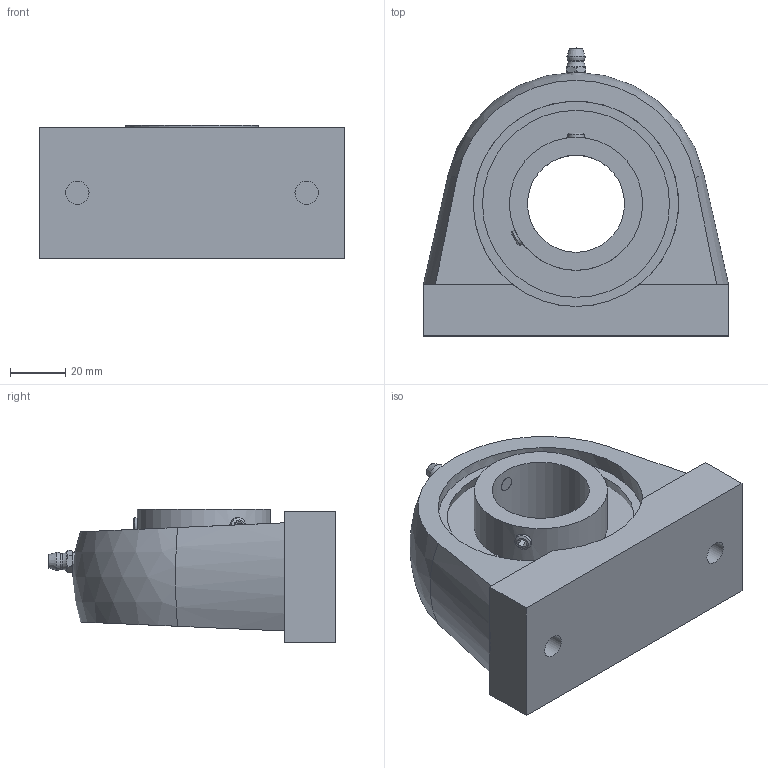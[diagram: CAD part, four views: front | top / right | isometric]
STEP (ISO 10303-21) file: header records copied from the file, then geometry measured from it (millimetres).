
FILE_DESCRIPTION(/* description */ (''),/* implementation_level */ '2;1');
FILE_NAME(/* name */ 'C:\Users\UGijyutu_200702\Desktop\77.プラスチックハウジング\MBTBL200V\MBTBL200V\MBTBL207V.stp',/* time_stamp */ '2024-05-28T11:40:13+09:00',/* author */ ('UGijyutu_200702'),/* organization */ (''),/* preprocessor_version */ 'ST-DEVELOPER v18',/* originating_system */ 'Autodesk Inventor 2020',/* authorisation */ '');
FILE_SCHEMA (('AUTOMOTIVE_DESIGN { 1 0 10303 214 3 1 1 }'));
Length unit declared in the file: millimetre
Products named in the file (4): MBTBL207V; TBL207; MB7 V; 1/4-28UNF-2A
Assembly tree (3 placements, depth 2):
  MBTBL207V
    TBL207
    MB7 V
    1/4-28UNF-2A
Bounding box: 110 x 103.8 x 48.15 mm (x, y, z)
Volume: 239930.8 mm3; surface area: 49429 mm2
Topology: 3 solids, 3 shells, 85 faces, 213 edges, 145 vertices
Faces by surface type: plane 46, cylinder 17, cone 15, sphere 5, torus 2
Full cylindrical faces by diameter (mm): 3.2 x1, 5.359 x1, 6 x2, 6.35 x1, 8.376 x2, 35 x1, 48 x1, 74 x2
Entity records: 2968 total; most frequent: CARTESIAN_POINT 703, DIRECTION 452, ORIENTED_EDGE 424, EDGE_CURVE 212, AXIS2_PLACEMENT_3D 186, VERTEX_POINT 145, EDGE_LOOP 103, FACE_OUTER_BOUND 85
